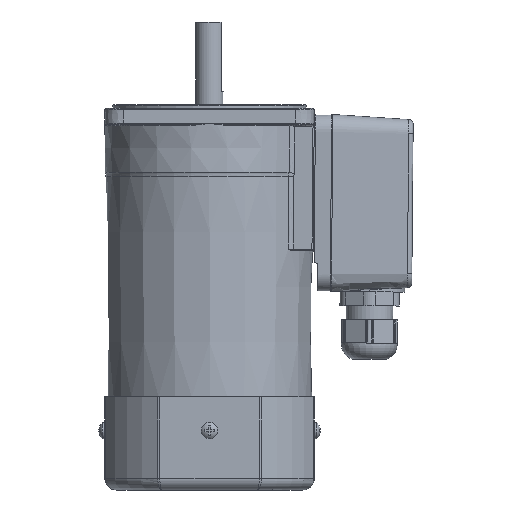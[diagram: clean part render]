
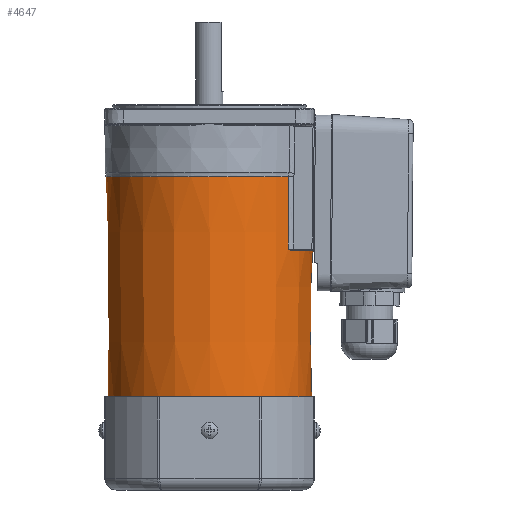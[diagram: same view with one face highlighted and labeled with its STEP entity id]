
A CAD part, left-side view. The second image highlights one B-rep face of the part: STEP entity #4647.
In plain terms, the highlighted conical face has half-angle 0.407 degrees and reference radius 44.5 mm.
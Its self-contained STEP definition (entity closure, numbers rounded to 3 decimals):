
#431 = EDGE_CURVE ( 'NONE', #1260, #1260, #16335, .T. ) ;
#1084 = CARTESIAN_POINT ( 'NONE',  ( -28.615, -33.842, -54.501 ) ) ;
#1260 = VERTEX_POINT ( 'NONE', #7626 ) ;
#1454 = VERTEX_POINT ( 'NONE', #5247 ) ;
#1972 = ORIENTED_EDGE ( 'NONE', *, *, #7719, .T. ) ;
#1994 = CARTESIAN_POINT ( 'NONE',  ( 0.858, -44.277, -60.4 ) ) ;
#2404 = CARTESIAN_POINT ( 'NONE',  ( -0.862, -44.277, -60.4 ) ) ;
#2573 = VERTEX_POINT ( 'NONE', #14296 ) ;
#2648 = CARTESIAN_POINT ( 'NONE',  ( -28.687, -33.861, -45.984 ) ) ;
#2889 = CIRCLE ( 'NONE', #6226, 44.276 ) ;
#3211 = CARTESIAN_POINT ( 'NONE',  ( 0., 0., -123.5 ) ) ;
#3528 = DIRECTION ( 'NONE',  ( 0., 0., 1. ) ) ;
#3531 = VERTEX_POINT ( 'NONE', #3670 ) ;
#3563 = CARTESIAN_POINT ( 'NONE',  ( 1.717, -44.252, -60.422 ) ) ;
#3670 = CARTESIAN_POINT ( 'NONE',  ( 5.142, -43.976, -60.5 ) ) ;
#3825 = AXIS2_PLACEMENT_3D ( 'NONE', #12796, #9982, #15953 ) ;
#3888 = EDGE_CURVE ( 'NONE', #9909, #11058, #19433, .T. ) ;
#4115 = EDGE_CURVE ( 'NONE', #11058, #2573, #13721, .T. ) ;
#4246 = ORIENTED_EDGE ( 'NONE', *, *, #11402, .T. ) ;
#4344 = CARTESIAN_POINT ( 'NONE',  ( -27.216, -34.923, -60.5 ) ) ;
#4355 = CARTESIAN_POINT ( 'NONE',  ( -28.356, -34.009, -60.121 ) ) ;
#4647 = ADVANCED_FACE ( 'NONE', ( #5833, #20293 ), #13418, .T. ) ;
#4767 = ORIENTED_EDGE ( 'NONE', *, *, #13642, .T. ) ;
#4953 = VERTEX_POINT ( 'NONE', #4344 ) ;
#4979 = CARTESIAN_POINT ( 'NONE',  ( 27.801, -34.461, -60.381 ) ) ;
#5247 = CARTESIAN_POINT ( 'NONE',  ( 27.216, -34.923, -60.5 ) ) ;
#5636 = AXIS2_PLACEMENT_3D ( 'NONE', #3211, #3528, #15970 ) ;
#5646 = CARTESIAN_POINT ( 'NONE',  ( 4.288, -44.076, -60.5 ) ) ;
#5753 = CARTESIAN_POINT ( 'NONE',  ( 28.639, -33.848, -51.653 ) ) ;
#5833 = FACE_BOUND ( 'NONE', #7162, .T. ) ;
#5852 = CARTESIAN_POINT ( 'NONE',  ( 28.798, -33.888, -32.95 ) ) ;
#5856 = VERTEX_POINT ( 'NONE', #8099 ) ;
#6226 = AXIS2_PLACEMENT_3D ( 'NONE', #13446, #11984, #10111 ) ;
#7162 = EDGE_LOOP ( 'NONE', ( #16992 ) ) ;
#7176 = EDGE_CURVE ( 'NONE', #1454, #3531, #20561, .T. ) ;
#7236 = CARTESIAN_POINT ( 'NONE',  ( -28.6, -33.838, -56.335 ) ) ;
#7618 = CARTESIAN_POINT ( 'NONE',  ( 28.781, -33.884, -34.95 ) ) ;
#7626 = CARTESIAN_POINT ( 'NONE',  ( 43.828, 0., -123.5 ) ) ;
#7675 = ORIENTED_EDGE ( 'NONE', *, *, #4115, .T. ) ;
#7684 = CARTESIAN_POINT ( 'NONE',  ( -27.687, -34.552, -60.422 ) ) ;
#7717 = AXIS2_PLACEMENT_3D ( 'NONE', #12759, #11303, #19282 ) ;
#7719 = EDGE_CURVE ( 'NONE', #3531, #12674, #16649, .T. ) ;
#8099 = CARTESIAN_POINT ( 'NONE',  ( -28.569, -33.83, -60.004 ) ) ;
#8239 = EDGE_LOOP ( 'NONE', ( #7675, #16656, #10969, #1972, #4246, #14476, #4767, #14003 ) ) ;
#8691 = B_SPLINE_CURVE_WITH_KNOTS ( 'NONE', 3,
 ( #18453, #15201, #7236, #1084, #2648, #9016, #8917 ),
 .UNSPECIFIED., .F., .F.,
 ( 4, 3, 4 ),
 ( 0., 0.006, 0.032 ),
 .UNSPECIFIED. ) ;
#8776 = CARTESIAN_POINT ( 'NONE',  ( -3.433, -44.151, -60.472 ) ) ;
#8917 = CARTESIAN_POINT ( 'NONE',  ( -28.832, -33.897, -28.95 ) ) ;
#9016 = CARTESIAN_POINT ( 'NONE',  ( -28.76, -33.879, -37.467 ) ) ;
#9909 = VERTEX_POINT ( 'NONE', #17700 ) ;
#9982 = DIRECTION ( 'NONE',  ( 0., 0., -1. ) ) ;
#10111 = DIRECTION ( 'NONE',  ( -1., 0., 0. ) ) ;
#10530 = EDGE_CURVE ( 'NONE', #2573, #1454, #15977, .T. ) ;
#10639 = CARTESIAN_POINT ( 'NONE',  ( 0., 0., -28.95 ) ) ;
#10656 = CARTESIAN_POINT ( 'NONE',  ( 28.569, -33.83, -60.004 ) ) ;
#10700 = B_SPLINE_CURVE_WITH_KNOTS ( 'NONE', 3,
 ( #20280, #10824, #18487, #7684, #12287, #15752, #4355, #10722 ),
 .UNSPECIFIED., .F., .F.,
 ( 4, 2, 2, 4 ),
 ( 0., 0., 0.001, 0.002 ),
 .UNSPECIFIED. ) ;
#10722 = CARTESIAN_POINT ( 'NONE',  ( -28.569, -33.83, -60.004 ) ) ;
#10824 = CARTESIAN_POINT ( 'NONE',  ( -27.337, -34.829, -60.5 ) ) ;
#10954 = CARTESIAN_POINT ( 'NONE',  ( 28.832, -33.897, -28.95 ) ) ;
#10969 = ORIENTED_EDGE ( 'NONE', *, *, #7176, .T. ) ;
#11058 = VERTEX_POINT ( 'NONE', #10954 ) ;
#11303 = DIRECTION ( 'NONE',  ( 0., 0., -1. ) ) ;
#11339 = CARTESIAN_POINT ( 'NONE',  ( 27.337, -34.829, -60.5 ) ) ;
#11402 = EDGE_CURVE ( 'NONE', #12674, #4953, #2889, .T. ) ;
#11527 = EDGE_CURVE ( 'NONE', #4953, #5856, #10700, .T. ) ;
#11915 = CARTESIAN_POINT ( 'NONE',  ( 28.832, -33.897, -28.95 ) ) ;
#11984 = DIRECTION ( 'NONE',  ( 0., 0., -1. ) ) ;
#12287 = CARTESIAN_POINT ( 'NONE',  ( -27.801, -34.461, -60.381 ) ) ;
#12674 = VERTEX_POINT ( 'NONE', #20183 ) ;
#12759 = CARTESIAN_POINT ( 'NONE',  ( 0., 0., -28.95 ) ) ;
#12796 = CARTESIAN_POINT ( 'NONE',  ( 0., 0., -60.5 ) ) ;
#12900 = CARTESIAN_POINT ( 'NONE',  ( 28.138, -34.188, -60.24 ) ) ;
#13271 = CARTESIAN_POINT ( 'NONE',  ( 5.142, -43.976, -60.5 ) ) ;
#13369 = CARTESIAN_POINT ( 'NONE',  ( -1.72, -44.251, -60.422 ) ) ;
#13418 = CONICAL_SURFACE ( 'NONE', #14089, 44.5, 0.007 ) ;
#13446 = CARTESIAN_POINT ( 'NONE',  ( 0., 0., -60.5 ) ) ;
#13642 = EDGE_CURVE ( 'NONE', #5856, #9909, #8691, .T. ) ;
#13669 = DIRECTION ( 'NONE',  ( 1., 0., 0. ) ) ;
#13721 = B_SPLINE_CURVE_WITH_KNOTS ( 'NONE', 3,
 ( #11915, #18327, #5852, #7618, #20103, #5753, #10656 ),
 .UNSPECIFIED., .F., .F.,
 ( 4, 3, 4 ),
 ( 0., 0.006, 0.031 ),
 .UNSPECIFIED. ) ;
#14003 = ORIENTED_EDGE ( 'NONE', *, *, #3888, .T. ) ;
#14089 = AXIS2_PLACEMENT_3D ( 'NONE', #10639, #17130, #13669 ) ;
#14296 = CARTESIAN_POINT ( 'NONE',  ( 28.569, -33.83, -60.004 ) ) ;
#14476 = ORIENTED_EDGE ( 'NONE', *, *, #11527, .T. ) ;
#15160 = CARTESIAN_POINT ( 'NONE',  ( -5.142, -43.976, -60.5 ) ) ;
#15201 = CARTESIAN_POINT ( 'NONE',  ( -28.584, -33.834, -58.169 ) ) ;
#15752 = CARTESIAN_POINT ( 'NONE',  ( -28.138, -34.188, -60.24 ) ) ;
#15849 = CARTESIAN_POINT ( 'NONE',  ( 27.687, -34.552, -60.422 ) ) ;
#15953 = DIRECTION ( 'NONE',  ( -1., 0., 0. ) ) ;
#15954 = CARTESIAN_POINT ( 'NONE',  ( 28.355, -34.01, -60.122 ) ) ;
#15970 = DIRECTION ( 'NONE',  ( 1., 0., 0. ) ) ;
#15977 = B_SPLINE_CURVE_WITH_KNOTS ( 'NONE', 3,
 ( #19217, #15954, #12900, #4979, #15849, #17533, #11339, #19327 ),
 .UNSPECIFIED., .F., .F.,
 ( 4, 2, 2, 4 ),
 ( 0., 0.001, 0.001, 0.002 ),
 .UNSPECIFIED. ) ;
#16335 = CIRCLE ( 'NONE', #5636, 43.828 ) ;
#16649 = B_SPLINE_CURVE_WITH_KNOTS ( 'NONE', 3,
 ( #13271, #5646, #16731, #3563, #1994, #2404, #13369, #8776, #19995, #15160 ),
 .UNSPECIFIED., .F., .F.,
 ( 4, 2, 2, 2, 4 ),
 ( 0., 0.003, 0.005, 0.008, 0.01 ),
 .UNSPECIFIED. ) ;
#16656 = ORIENTED_EDGE ( 'NONE', *, *, #10530, .T. ) ;
#16731 = CARTESIAN_POINT ( 'NONE',  ( 3.431, -44.151, -60.472 ) ) ;
#16992 = ORIENTED_EDGE ( 'NONE', *, *, #431, .T. ) ;
#17130 = DIRECTION ( 'NONE',  ( 0., 0., 1. ) ) ;
#17533 = CARTESIAN_POINT ( 'NONE',  ( 27.455, -34.737, -60.481 ) ) ;
#17700 = CARTESIAN_POINT ( 'NONE',  ( -28.832, -33.897, -28.95 ) ) ;
#18327 = CARTESIAN_POINT ( 'NONE',  ( 28.815, -33.893, -30.95 ) ) ;
#18453 = CARTESIAN_POINT ( 'NONE',  ( -28.569, -33.83, -60.004 ) ) ;
#18487 = CARTESIAN_POINT ( 'NONE',  ( -27.455, -34.737, -60.481 ) ) ;
#19217 = CARTESIAN_POINT ( 'NONE',  ( 28.569, -33.83, -60.004 ) ) ;
#19282 = DIRECTION ( 'NONE',  ( -1., 0., 0. ) ) ;
#19327 = CARTESIAN_POINT ( 'NONE',  ( 27.216, -34.923, -60.5 ) ) ;
#19433 = CIRCLE ( 'NONE', #7717, 44.5 ) ;
#19995 = CARTESIAN_POINT ( 'NONE',  ( -4.288, -44.076, -60.5 ) ) ;
#20103 = CARTESIAN_POINT ( 'NONE',  ( 28.71, -33.866, -43.301 ) ) ;
#20183 = CARTESIAN_POINT ( 'NONE',  ( -5.142, -43.976, -60.5 ) ) ;
#20280 = CARTESIAN_POINT ( 'NONE',  ( -27.216, -34.923, -60.5 ) ) ;
#20293 = FACE_OUTER_BOUND ( 'NONE', #8239, .T. ) ;
#20561 = CIRCLE ( 'NONE', #3825, 44.276 ) ;
